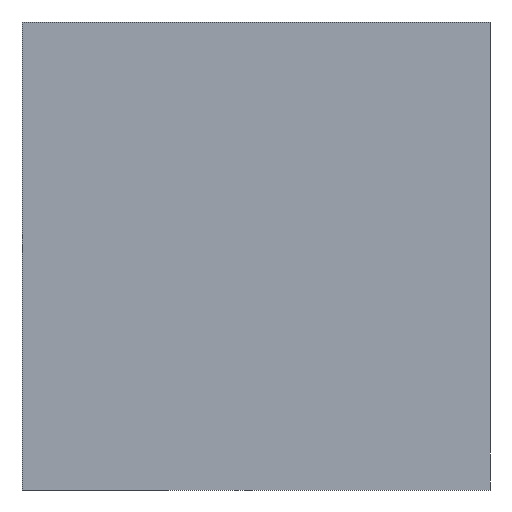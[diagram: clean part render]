
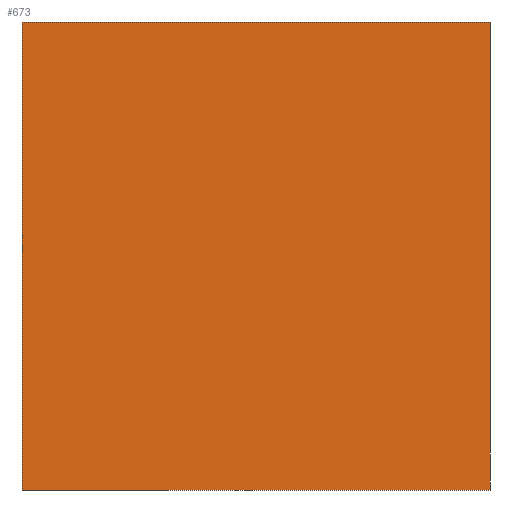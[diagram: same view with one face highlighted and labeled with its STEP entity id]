
A CAD part, front view. The second image highlights one B-rep face of the part: STEP entity #673.
In plain terms, the highlighted planar face has unit normal (0, -1, 0).
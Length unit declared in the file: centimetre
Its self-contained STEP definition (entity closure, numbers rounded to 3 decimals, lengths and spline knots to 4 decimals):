
#40 = EDGE_CURVE ( 'NONE', #429, #182, #390, .T. ) ;
#43 = CARTESIAN_POINT ( 'NONE',  ( 0., 0., 1000. ) ) ;
#53 = VECTOR ( 'NONE', #412, 100. ) ;
#66 = CARTESIAN_POINT ( 'NONE',  ( 0., 0., 0. ) ) ;
#74 = ORIENTED_EDGE ( 'NONE', *, *, #117, .F. ) ;
#86 = ORIENTED_EDGE ( 'NONE', *, *, #598, .T. ) ;
#97 = VECTOR ( 'NONE', #470, 100. ) ;
#117 = EDGE_CURVE ( 'NONE', #350, #429, #278, .T. ) ;
#120 = CARTESIAN_POINT ( 'NONE',  ( 0., 0., 0. ) ) ;
#136 = ORIENTED_EDGE ( 'NONE', *, *, #40, .F. ) ;
#182 = VERTEX_POINT ( 'NONE', #458 ) ;
#232 = LINE ( 'NONE', #360, #383 ) ;
#261 = ORIENTED_EDGE ( 'NONE', *, *, #546, .T. ) ;
#275 = PLANE ( 'NONE',  #642 ) ;
#278 = LINE ( 'NONE', #591, #53 ) ;
#350 = VERTEX_POINT ( 'NONE', #43 ) ;
#360 = CARTESIAN_POINT ( 'NONE',  ( 0., 0., 1000. ) ) ;
#366 = DIRECTION ( 'NONE',  ( 0., 0., -1. ) ) ;
#383 = VECTOR ( 'NONE', #366, 100. ) ;
#390 = LINE ( 'NONE', #502, #391 ) ;
#391 = VECTOR ( 'NONE', #442, 100. ) ;
#409 = CARTESIAN_POINT ( 'NONE',  ( 1000., 0., 1000. ) ) ;
#412 = DIRECTION ( 'NONE',  ( 1., 0., 0. ) ) ;
#429 = VERTEX_POINT ( 'NONE', #409 ) ;
#442 = DIRECTION ( 'NONE',  ( 0., 0., -1. ) ) ;
#452 = FACE_OUTER_BOUND ( 'NONE', #691, .T. ) ;
#458 = CARTESIAN_POINT ( 'NONE',  ( 1000., 0., 0. ) ) ;
#470 = DIRECTION ( 'NONE',  ( 1., 0., 0. ) ) ;
#502 = CARTESIAN_POINT ( 'NONE',  ( 1000., 0., 1000. ) ) ;
#539 = VERTEX_POINT ( 'NONE', #120 ) ;
#546 = EDGE_CURVE ( 'NONE', #539, #182, #588, .T. ) ;
#588 = LINE ( 'NONE', #66, #97 ) ;
#591 = CARTESIAN_POINT ( 'NONE',  ( 0., 0., 1000. ) ) ;
#598 = EDGE_CURVE ( 'NONE', #350, #539, #232, .T. ) ;
#639 = CARTESIAN_POINT ( 'NONE',  ( 0., 0., 1000. ) ) ;
#642 = AXIS2_PLACEMENT_3D ( 'NONE', #639, #695, #703 ) ;
#673 = ADVANCED_FACE ( 'NONE', ( #452 ), #275, .F. ) ;
#691 = EDGE_LOOP ( 'NONE', ( #261, #136, #74, #86 ) ) ;
#695 = DIRECTION ( 'NONE',  ( 0., 1., 0. ) ) ;
#703 = DIRECTION ( 'NONE',  ( 0., 0., 1. ) ) ;
